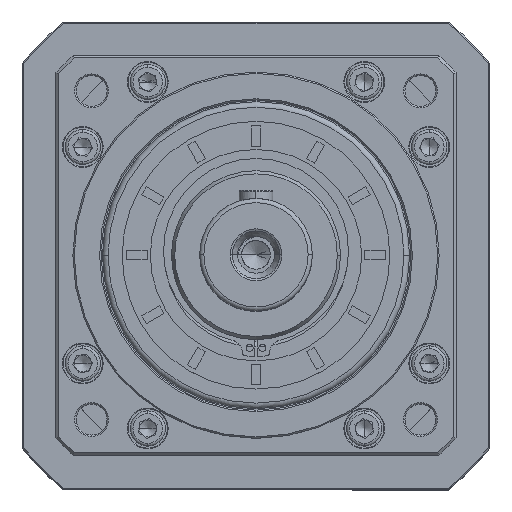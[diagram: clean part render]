
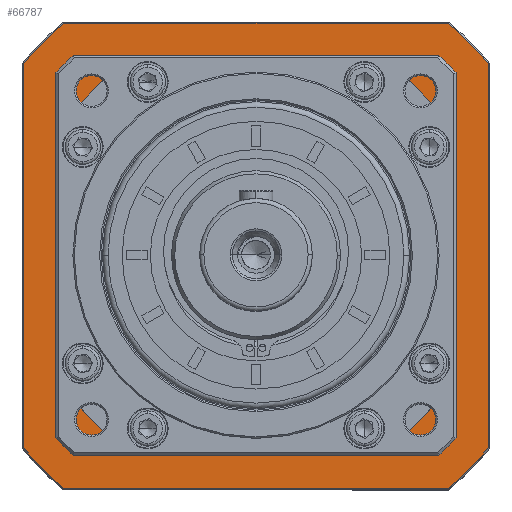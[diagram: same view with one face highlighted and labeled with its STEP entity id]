
A CAD part, top view. The second image highlights one B-rep face of the part: STEP entity #66787.
In plain terms, the highlighted planar face has unit normal (0, 0, 1).
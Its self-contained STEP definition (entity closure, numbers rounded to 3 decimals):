
#840 = LINE ( 'NONE', #105547, #36139 ) ;
#886 = DIRECTION ( 'NONE',  ( -1., 0., 0. ) ) ;
#1292 = CARTESIAN_POINT ( 'NONE',  ( 109.692, 76.653, 111.828 ) ) ;
#1456 = ORIENTED_EDGE ( 'NONE', *, *, #81014, .F. ) ;
#2345 = CIRCLE ( 'NONE', #121135, 107. ) ;
#2809 = LINE ( 'NONE', #19056, #119012 ) ;
#3224 = DIRECTION ( 'NONE',  ( 0., -1., 0. ) ) ;
#4166 = VERTEX_POINT ( 'NONE', #6351 ) ;
#4373 = DIRECTION ( 'NONE',  ( 0., 0., -1. ) ) ;
#4817 = DIRECTION ( 'NONE',  ( 0., -1., 0. ) ) ;
#6351 = CARTESIAN_POINT ( 'NONE',  ( 192.192, 144.79, 111.828 ) ) ;
#7027 = DIRECTION ( 'NONE',  ( 0., 0., -1. ) ) ;
#7840 = CARTESIAN_POINT ( 'NONE',  ( 109.692, 76.653, 111.828 ) ) ;
#7964 = VERTEX_POINT ( 'NONE', #49298 ) ;
#8132 = VERTEX_POINT ( 'NONE', #69846 ) ;
#8244 = ORIENTED_EDGE ( 'NONE', *, *, #99231, .F. ) ;
#8286 = CARTESIAN_POINT ( 'NONE',  ( 41.554, -5.847, 111.828 ) ) ;
#9540 = EDGE_LOOP ( 'NONE', ( #20572, #100880, #101925, #40061, #58397, #1456, #108496, #91500 ) ) ;
#12713 = DIRECTION ( 'NONE',  ( -1., 0., 0. ) ) ;
#14858 = EDGE_CURVE ( 'NONE', #76331, #116604, #52371, .T. ) ;
#16093 = DIRECTION ( 'NONE',  ( 1., 0., 0. ) ) ;
#16296 = CARTESIAN_POINT ( 'NONE',  ( 109.692, 159.153, 111.828 ) ) ;
#17074 = AXIS2_PLACEMENT_3D ( 'NONE', #52599, #34077, #53391 ) ;
#18622 = DIRECTION ( 'NONE',  ( 1., 0., 0. ) ) ;
#19056 = CARTESIAN_POINT ( 'NONE',  ( 180.192, 5.653, 111.828 ) ) ;
#20441 = CARTESIAN_POINT ( 'NONE',  ( 27.192, 76.653, 111.828 ) ) ;
#20572 = ORIENTED_EDGE ( 'NONE', *, *, #91237, .F. ) ;
#20667 = EDGE_CURVE ( 'NONE', #92707, #62204, #21244, .T. ) ;
#21021 = CIRCLE ( 'NONE', #104821, 107. ) ;
#21244 = CIRCLE ( 'NONE', #25743, 82. ) ;
#23137 = EDGE_CURVE ( 'NONE', #116604, #7964, #53902, .T. ) ;
#24477 = DIRECTION ( 'NONE',  ( 1., 0., 0. ) ) ;
#25743 = AXIS2_PLACEMENT_3D ( 'NONE', #27659, #37900, #18622 ) ;
#25753 = CARTESIAN_POINT ( 'NONE',  ( 27.192, 8.515, 111.828 ) ) ;
#26669 = CARTESIAN_POINT ( 'NONE',  ( 109.692, 76.653, 111.828 ) ) ;
#26745 = LINE ( 'NONE', #86177, #34101 ) ;
#27080 = VERTEX_POINT ( 'NONE', #77038 ) ;
#27659 = CARTESIAN_POINT ( 'NONE',  ( 109.692, 76.653, 111.828 ) ) ;
#27661 = LINE ( 'NONE', #32452, #110024 ) ;
#27809 = AXIS2_PLACEMENT_3D ( 'NONE', #88602, #4373, #97598 ) ;
#28284 = DIRECTION ( 'NONE',  ( 0., 0., 1. ) ) ;
#29995 = LINE ( 'NONE', #95509, #77057 ) ;
#32452 = CARTESIAN_POINT ( 'NONE',  ( 180.692, 147.153, 111.828 ) ) ;
#32864 = VECTOR ( 'NONE', #24477, 1000. ) ;
#33741 = PLANE ( 'NONE',  #78430 ) ;
#34077 = DIRECTION ( 'NONE',  ( 0., 0., 1. ) ) ;
#34101 = VECTOR ( 'NONE', #39287, 1000. ) ;
#35000 = CARTESIAN_POINT ( 'NONE',  ( 109.692, 76.653, 111.828 ) ) ;
#35369 = VERTEX_POINT ( 'NONE', #69240 ) ;
#36139 = VECTOR ( 'NONE', #3224, 1000. ) ;
#36514 = ORIENTED_EDGE ( 'NONE', *, *, #14858, .F. ) ;
#37900 = DIRECTION ( 'NONE',  ( 0., 0., 1. ) ) ;
#38154 = VERTEX_POINT ( 'NONE', #74504 ) ;
#39287 = DIRECTION ( 'NONE',  ( -1., 0., 0. ) ) ;
#40061 = ORIENTED_EDGE ( 'NONE', *, *, #68672, .F. ) ;
#43797 = CARTESIAN_POINT ( 'NONE',  ( 109.692, 76.653, 111.828 ) ) ;
#45417 = CARTESIAN_POINT ( 'NONE',  ( 180.192, 118.53, 111.828 ) ) ;
#47099 = CIRCLE ( 'NONE', #97305, 82. ) ;
#47425 = VECTOR ( 'NONE', #4817, 1000. ) ;
#48508 = EDGE_CURVE ( 'NONE', #27080, #96315, #26745, .T. ) ;
#49298 = CARTESIAN_POINT ( 'NONE',  ( 41.554, 159.153, 111.828 ) ) ;
#52371 = LINE ( 'NONE', #20441, #71466 ) ;
#52599 = CARTESIAN_POINT ( 'NONE',  ( 109.692, 76.653, 111.828 ) ) ;
#53391 = DIRECTION ( 'NONE',  ( 0., -1., 0. ) ) ;
#53667 = VERTEX_POINT ( 'NONE', #58270 ) ;
#53902 = CIRCLE ( 'NONE', #117513, 107. ) ;
#55880 = DIRECTION ( 'NONE',  ( 0., 0., -1. ) ) ;
#56266 = DIRECTION ( 'NONE',  ( 1., 0., 0. ) ) ;
#57238 = FACE_OUTER_BOUND ( 'NONE', #94416, .T. ) ;
#58181 = EDGE_CURVE ( 'NONE', #8132, #27080, #2345, .T. ) ;
#58270 = CARTESIAN_POINT ( 'NONE',  ( 180.192, 34.775, 111.828 ) ) ;
#58323 = DIRECTION ( 'NONE',  ( 0., 1., 0. ) ) ;
#58397 = ORIENTED_EDGE ( 'NONE', *, *, #109154, .F. ) ;
#59341 = LINE ( 'NONE', #117430, #47425 ) ;
#62204 = VERTEX_POINT ( 'NONE', #81772 ) ;
#62268 = LINE ( 'NONE', #16296, #32864 ) ;
#62656 = EDGE_CURVE ( 'NONE', #38154, #53667, #47099, .T. ) ;
#66787 = ADVANCED_FACE ( 'NONE', ( #57238, #91062 ), #33741, .F. ) ;
#67064 = VERTEX_POINT ( 'NONE', #94454 ) ;
#67649 = ORIENTED_EDGE ( 'NONE', *, *, #58181, .F. ) ;
#67930 = CARTESIAN_POINT ( 'NONE',  ( 177.83, 159.153, 111.828 ) ) ;
#68672 = EDGE_CURVE ( 'NONE', #121051, #38154, #29995, .T. ) ;
#69240 = CARTESIAN_POINT ( 'NONE',  ( 151.57, 147.153, 111.828 ) ) ;
#69846 = CARTESIAN_POINT ( 'NONE',  ( 192.192, 8.515, 111.828 ) ) ;
#70662 = ORIENTED_EDGE ( 'NONE', *, *, #23137, .F. ) ;
#71466 = VECTOR ( 'NONE', #58323, 1000. ) ;
#71946 = ORIENTED_EDGE ( 'NONE', *, *, #116187, .F. ) ;
#72591 = DIRECTION ( 'NONE',  ( 0., 0., -1. ) ) ;
#73932 = CARTESIAN_POINT ( 'NONE',  ( 67.814, 147.153, 111.828 ) ) ;
#74504 = CARTESIAN_POINT ( 'NONE',  ( 151.57, 6.153, 111.828 ) ) ;
#74569 = DIRECTION ( 'NONE',  ( 0., 1., 0. ) ) ;
#74756 = DIRECTION ( 'NONE',  ( -1., 0., 0. ) ) ;
#76085 = EDGE_CURVE ( 'NONE', #35369, #92707, #27661, .T. ) ;
#76331 = VERTEX_POINT ( 'NONE', #25753 ) ;
#77038 = CARTESIAN_POINT ( 'NONE',  ( 177.83, -5.847, 111.828 ) ) ;
#77057 = VECTOR ( 'NONE', #114527, 1000. ) ;
#77189 = ORIENTED_EDGE ( 'NONE', *, *, #48508, .F. ) ;
#78430 = AXIS2_PLACEMENT_3D ( 'NONE', #7840, #7027, #119679 ) ;
#79023 = ORIENTED_EDGE ( 'NONE', *, *, #83454, .F. ) ;
#80864 = DIRECTION ( 'NONE',  ( -1., 0., 0. ) ) ;
#81014 = EDGE_CURVE ( 'NONE', #62204, #67064, #59341, .T. ) ;
#81772 = CARTESIAN_POINT ( 'NONE',  ( 39.192, 118.53, 111.828 ) ) ;
#83454 = EDGE_CURVE ( 'NONE', #96315, #76331, #108164, .T. ) ;
#83921 = VERTEX_POINT ( 'NONE', #67930 ) ;
#84596 = CIRCLE ( 'NONE', #95293, 82. ) ;
#84784 = VERTEX_POINT ( 'NONE', #45417 ) ;
#84990 = CARTESIAN_POINT ( 'NONE',  ( 109.692, 76.653, 111.828 ) ) ;
#86177 = CARTESIAN_POINT ( 'NONE',  ( 109.692, -5.847, 111.828 ) ) ;
#88602 = CARTESIAN_POINT ( 'NONE',  ( 109.692, 76.653, 111.828 ) ) ;
#91062 = FACE_BOUND ( 'NONE', #9540, .T. ) ;
#91237 = EDGE_CURVE ( 'NONE', #84784, #35369, #91738, .T. ) ;
#91500 = ORIENTED_EDGE ( 'NONE', *, *, #76085, .F. ) ;
#91738 = CIRCLE ( 'NONE', #17074, 82. ) ;
#92707 = VERTEX_POINT ( 'NONE', #73932 ) ;
#94416 = EDGE_LOOP ( 'NONE', ( #77189, #67649, #71946, #8244, #118958, #70662, #36514, #79023 ) ) ;
#94454 = CARTESIAN_POINT ( 'NONE',  ( 39.192, 34.775, 111.828 ) ) ;
#95293 = AXIS2_PLACEMENT_3D ( 'NONE', #84990, #28284, #56266 ) ;
#95509 = CARTESIAN_POINT ( 'NONE',  ( 180.692, 6.153, 111.828 ) ) ;
#96315 = VERTEX_POINT ( 'NONE', #8286 ) ;
#97305 = AXIS2_PLACEMENT_3D ( 'NONE', #35000, #101595, #16093 ) ;
#97598 = DIRECTION ( 'NONE',  ( -1., 0., 0. ) ) ;
#99231 = EDGE_CURVE ( 'NONE', #83921, #4166, #21021, .T. ) ;
#99266 = EDGE_CURVE ( 'NONE', #7964, #83921, #62268, .T. ) ;
#99973 = CARTESIAN_POINT ( 'NONE',  ( 67.814, 6.153, 111.828 ) ) ;
#100880 = ORIENTED_EDGE ( 'NONE', *, *, #104000, .F. ) ;
#101595 = DIRECTION ( 'NONE',  ( 0., 0., 1. ) ) ;
#101925 = ORIENTED_EDGE ( 'NONE', *, *, #62656, .F. ) ;
#104000 = EDGE_CURVE ( 'NONE', #53667, #84784, #2809, .T. ) ;
#104821 = AXIS2_PLACEMENT_3D ( 'NONE', #43797, #72591, #80864 ) ;
#105547 = CARTESIAN_POINT ( 'NONE',  ( 192.192, 76.653, 111.828 ) ) ;
#108164 = CIRCLE ( 'NONE', #27809, 107. ) ;
#108496 = ORIENTED_EDGE ( 'NONE', *, *, #20667, .F. ) ;
#109154 = EDGE_CURVE ( 'NONE', #67064, #121051, #84596, .T. ) ;
#110024 = VECTOR ( 'NONE', #12713, 1000. ) ;
#114059 = CARTESIAN_POINT ( 'NONE',  ( 27.192, 144.79, 111.828 ) ) ;
#114527 = DIRECTION ( 'NONE',  ( 1., 0., 0. ) ) ;
#116187 = EDGE_CURVE ( 'NONE', #4166, #8132, #840, .T. ) ;
#116604 = VERTEX_POINT ( 'NONE', #114059 ) ;
#117430 = CARTESIAN_POINT ( 'NONE',  ( 39.192, 5.653, 111.828 ) ) ;
#117513 = AXIS2_PLACEMENT_3D ( 'NONE', #1292, #121756, #886 ) ;
#118958 = ORIENTED_EDGE ( 'NONE', *, *, #99266, .F. ) ;
#119012 = VECTOR ( 'NONE', #74569, 1000. ) ;
#119679 = DIRECTION ( 'NONE',  ( -1., 0., 0. ) ) ;
#121051 = VERTEX_POINT ( 'NONE', #99973 ) ;
#121135 = AXIS2_PLACEMENT_3D ( 'NONE', #26669, #55880, #74756 ) ;
#121756 = DIRECTION ( 'NONE',  ( 0., 0., -1. ) ) ;
